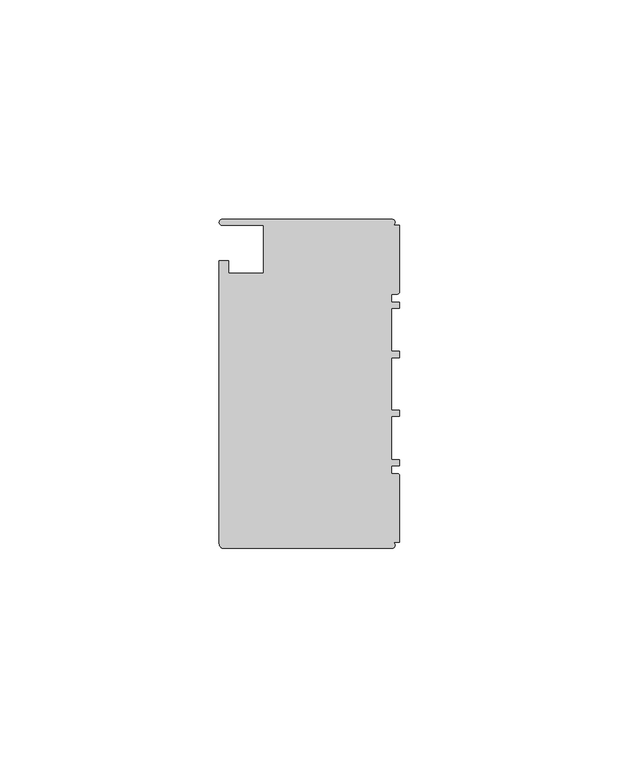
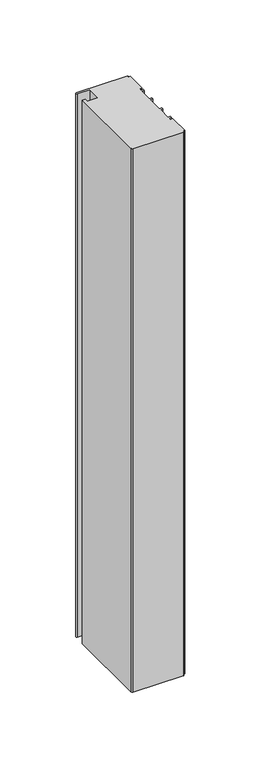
"""IFC4 building model written with IfcOpenShell, lengths in millimetres: member geometry, Прямоугольный импост : 1-AMG-1-Профиль 40Х75 Верх П."""

from ifc_helpers import new_model, si_unit, point, frame, frame_2d, origin, place, context, project, spatial, polyline, circle_curve, trimmed, segment, composite_curve, outline, extrude, source, transform, mapped, element, save


def member_db58016d(model_context):
    return source(origin(), model_context, "Body", "SweptSolid", [
        extrude(outline(composite_curve([segment(polyline([(37.5, -1.7), (37.5, -40.4)]), True, "CONTINUOUS"), segment(trimmed(circle_curve(frame_2d((36.8, -40.4)), 0.7), [point((37.5, -40.4))], [point((36.1, -40.4))], False, "CARTESIAN"), True, "CONTINUOUS"), segment(polyline([(36.1, -40.4), (36.1, -31.0), (25.25, -31.0), (25.25, -39.0), (28.1, -39.0), (28.1, -41.1), (-36.1, -41.1)]), True, "CONTINUOUS"), segment(trimmed(circle_curve(frame_2d((-36.3020763, -39.7541527)), 1.3609334), [point((-36.1, -41.1))], [point((-37.5, -40.4))], False, "CARTESIAN"), True, "CONTINUOUS"), segment(polyline([(-37.5, -40.4), (-37.5, -1.7)]), True, "CONTINUOUS"), segment(trimmed(circle_curve(frame_2d((-36.8, -1.7)), 0.7), [point((-37.5, -1.7))], [point((-36.1, -1.7))], False, "CARTESIAN"), True, "CONTINUOUS"), segment(polyline([(-36.1, -1.7), (-36.1, 0.0), (-20.95, 0.0)]), True, "CONTINUOUS"), segment(trimmed(circle_curve(frame_2d((-20.95, -0.5)), 0.5), [point((-20.95, 0.0))], [point((-20.45, -0.5))], False, "CARTESIAN"), True, "CONTINUOUS"), segment(polyline([(-20.45, -0.5), (-20.45, -1.8), (-18.65, -1.8), (-18.65, 0.0), (-17.25, 0.0), (-17.25, -1.8), (-7.4, -1.8), (-7.4, 0.0), (-6.0, 0.0), (-6.0, -1.8), (6.0, -1.8), (6.0, 0.0), (7.4, 0.0), (7.4, -1.8), (17.25, -1.8), (17.25, 0.0), (18.65, 0.0), (18.65, -1.8), (20.45, -1.8), (20.45, -0.5)]), True, "CONTINUOUS"), segment(trimmed(circle_curve(frame_2d((20.95, -0.5)), 0.5), [point((20.45, -0.5))], [point((20.95, 0.0))], False, "CARTESIAN"), True, "CONTINUOUS"), segment(polyline([(20.95, 0.0), (36.1, 0.0), (36.1, -1.7)]), True, "CONTINUOUS"), segment(trimmed(circle_curve(frame_2d((36.8, -1.7)), 0.7), [point((36.1, -1.7))], [point((37.5, -1.7))], False, "CARTESIAN"), True, "CONTINUOUS")], self_intersect=False)), frame((0.0, 0.0, 0.0), z_axis=(0.0, 0.0, -1.0), x_axis=(0.0, 1.0, 0.0)), (0.0, 0.0, 1.0), 440.0),
    ])


if __name__ == "__main__":
    model = new_model("IFC4")
    model_context = context("Model", 3, world=origin())
    ifc_project = project(units=[si_unit("LENGTHUNIT", "METRE", prefix="MILLI")], contexts=[model_context])
    site = spatial("IfcSite", under=ifc_project)
    building = spatial("IfcBuilding", under=site)
    placement = place(None, origin())
    member_shape = member_db58016d(model_context)
    element("IfcMember", 1, ObjectType="Прямоугольный импост : 1-AMG-1-Профиль 40Х75 Верх П", at=placement, inside=building, context=model_context, shape_type="MappedRepresentation", body=[
        mapped(member_shape, transform((0.0, 0.0, 0.0), x_axis=(1.0, 0.0, 0.0), y_axis=(0.0, 1.0, 0.0), z_axis=(0.0, 0.0, 1.0))),
    ])
    save(model, "model.ifc")
